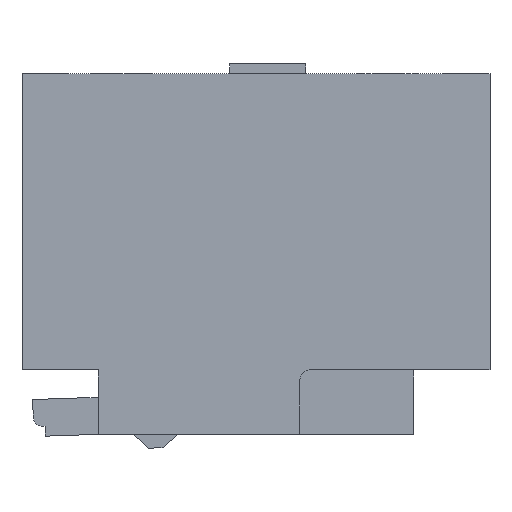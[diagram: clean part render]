
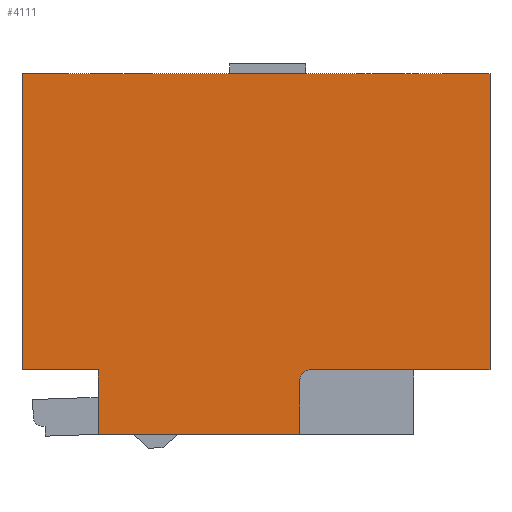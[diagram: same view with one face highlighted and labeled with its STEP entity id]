
A CAD part, left-side view. The second image highlights one B-rep face of the part: STEP entity #4111.
In plain terms, the highlighted planar face has unit normal (-1, 0, 0).
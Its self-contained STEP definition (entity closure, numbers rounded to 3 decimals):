
#27 = EDGE_CURVE ( 'NONE', #1536, #2897, #3526, .T. ) ;
#116 = LINE ( 'NONE', #1772, #3765 ) ;
#191 = VERTEX_POINT ( 'NONE', #746 ) ;
#222 = CIRCLE ( 'NONE', #2898, 1. ) ;
#294 = ORIENTED_EDGE ( 'NONE', *, *, #4285, .T. ) ;
#408 = ORIENTED_EDGE ( 'NONE', *, *, #3422, .T. ) ;
#447 = LINE ( 'NONE', #3438, #4096 ) ;
#456 = DIRECTION ( 'NONE',  ( 0., -1., 0. ) ) ;
#485 = EDGE_CURVE ( 'NONE', #1859, #3072, #498, .T. ) ;
#498 = LINE ( 'NONE', #2179, #3177 ) ;
#541 = CARTESIAN_POINT ( 'NONE',  ( -11.6, -5.5, 6.6 ) ) ;
#730 = CARTESIAN_POINT ( 'NONE',  ( -11.6, -4.5, 0. ) ) ;
#746 = CARTESIAN_POINT ( 'NONE',  ( -11.6, -24., 6.6 ) ) ;
#753 = VERTEX_POINT ( 'NONE', #2255 ) ;
#763 = DIRECTION ( 'NONE',  ( 0., 0., 1. ) ) ;
#912 = VERTEX_POINT ( 'NONE', #2867 ) ;
#1041 = CARTESIAN_POINT ( 'NONE',  ( -11.6, -4.5, 5.6 ) ) ;
#1056 = CARTESIAN_POINT ( 'NONE',  ( -11.6, 16.2, 0. ) ) ;
#1105 = DIRECTION ( 'NONE',  ( 0., 1., 0. ) ) ;
#1173 = DIRECTION ( 'NONE',  ( 0., 0., -1. ) ) ;
#1191 = VERTEX_POINT ( 'NONE', #541 ) ;
#1218 = CARTESIAN_POINT ( 'NONE',  ( -11.6, 24., 37. ) ) ;
#1339 = LINE ( 'NONE', #2497, #4144 ) ;
#1356 = EDGE_LOOP ( 'NONE', ( #2071, #294, #2191, #408, #4485, #2529, #3795, #3143, #3430, #2626 ) ) ;
#1439 = EDGE_CURVE ( 'NONE', #1536, #1859, #1486, .T. ) ;
#1455 = LINE ( 'NONE', #3181, #3200 ) ;
#1474 = DIRECTION ( 'NONE',  ( 0., -1., 0. ) ) ;
#1486 = LINE ( 'NONE', #1218, #3117 ) ;
#1536 = VERTEX_POINT ( 'NONE', #3748 ) ;
#1660 = DIRECTION ( 'NONE',  ( 0., 0., -1. ) ) ;
#1766 = CARTESIAN_POINT ( 'NONE',  ( -11.6, 16.2, 6.6 ) ) ;
#1772 = CARTESIAN_POINT ( 'NONE',  ( -11.6, -24., 37. ) ) ;
#1859 = VERTEX_POINT ( 'NONE', #3032 ) ;
#1897 = VECTOR ( 'NONE', #3521, 1000. ) ;
#2049 = VECTOR ( 'NONE', #763, 1000. ) ;
#2071 = ORIENTED_EDGE ( 'NONE', *, *, #4438, .T. ) ;
#2148 = PLANE ( 'NONE',  #4299 ) ;
#2153 = CARTESIAN_POINT ( 'NONE',  ( -11.6, -24., 37. ) ) ;
#2179 = CARTESIAN_POINT ( 'NONE',  ( -11.6, 24., 6.6 ) ) ;
#2191 = ORIENTED_EDGE ( 'NONE', *, *, #4048, .T. ) ;
#2212 = DIRECTION ( 'NONE',  ( 0., 1., 0. ) ) ;
#2255 = CARTESIAN_POINT ( 'NONE',  ( -11.6, -4.5, 0. ) ) ;
#2368 = DIRECTION ( 'NONE',  ( 0., -1., 0. ) ) ;
#2394 = EDGE_CURVE ( 'NONE', #3072, #3313, #2806, .T. ) ;
#2411 = CARTESIAN_POINT ( 'NONE',  ( -11.6, 16.2, 37. ) ) ;
#2475 = DIRECTION ( 'NONE',  ( 0., -1., 0. ) ) ;
#2486 = CARTESIAN_POINT ( 'NONE',  ( -11.6, 24., 37. ) ) ;
#2497 = CARTESIAN_POINT ( 'NONE',  ( -11.6, 24., 6.6 ) ) ;
#2529 = ORIENTED_EDGE ( 'NONE', *, *, #2865, .F. ) ;
#2617 = VECTOR ( 'NONE', #456, 1000. ) ;
#2626 = ORIENTED_EDGE ( 'NONE', *, *, #2394, .T. ) ;
#2769 = VERTEX_POINT ( 'NONE', #1041 ) ;
#2805 = FACE_OUTER_BOUND ( 'NONE', #1356, .T. ) ;
#2806 = LINE ( 'NONE', #2411, #1897 ) ;
#2865 = EDGE_CURVE ( 'NONE', #2897, #191, #116, .T. ) ;
#2867 = CARTESIAN_POINT ( 'NONE',  ( -11.6, -16.2, 6.6 ) ) ;
#2897 = VERTEX_POINT ( 'NONE', #2153 ) ;
#2898 = AXIS2_PLACEMENT_3D ( 'NONE', #3570, #3232, #1105 ) ;
#2988 = LINE ( 'NONE', #730, #2049 ) ;
#3032 = CARTESIAN_POINT ( 'NONE',  ( -11.6, 24., 6.6 ) ) ;
#3072 = VERTEX_POINT ( 'NONE', #1766 ) ;
#3117 = VECTOR ( 'NONE', #1173, 1000. ) ;
#3143 = ORIENTED_EDGE ( 'NONE', *, *, #1439, .T. ) ;
#3177 = VECTOR ( 'NONE', #1474, 1000. ) ;
#3181 = CARTESIAN_POINT ( 'NONE',  ( -11.6, -16.2, 6.6 ) ) ;
#3200 = VECTOR ( 'NONE', #3625, 1000. ) ;
#3215 = DIRECTION ( 'NONE',  ( 1., 0., 0. ) ) ;
#3232 = DIRECTION ( 'NONE',  ( 1., 0., 0. ) ) ;
#3311 = CARTESIAN_POINT ( 'NONE',  ( -11.6, 24., 37. ) ) ;
#3313 = VERTEX_POINT ( 'NONE', #1056 ) ;
#3422 = EDGE_CURVE ( 'NONE', #1191, #912, #1455, .T. ) ;
#3430 = ORIENTED_EDGE ( 'NONE', *, *, #485, .T. ) ;
#3438 = CARTESIAN_POINT ( 'NONE',  ( -11.6, 24., 0. ) ) ;
#3521 = DIRECTION ( 'NONE',  ( 0., 0., -1. ) ) ;
#3526 = LINE ( 'NONE', #3311, #2617 ) ;
#3570 = CARTESIAN_POINT ( 'NONE',  ( -11.6, -5.5, 5.6 ) ) ;
#3625 = DIRECTION ( 'NONE',  ( 0., -1., 0. ) ) ;
#3748 = CARTESIAN_POINT ( 'NONE',  ( -11.6, 24., 37. ) ) ;
#3765 = VECTOR ( 'NONE', #1660, 1000. ) ;
#3795 = ORIENTED_EDGE ( 'NONE', *, *, #27, .F. ) ;
#3816 = EDGE_CURVE ( 'NONE', #912, #191, #1339, .T. ) ;
#4048 = EDGE_CURVE ( 'NONE', #2769, #1191, #222, .T. ) ;
#4096 = VECTOR ( 'NONE', #2368, 1000. ) ;
#4111 = ADVANCED_FACE ( 'NONE', ( #2805 ), #2148, .F. ) ;
#4144 = VECTOR ( 'NONE', #2475, 1000. ) ;
#4285 = EDGE_CURVE ( 'NONE', #753, #2769, #2988, .T. ) ;
#4299 = AXIS2_PLACEMENT_3D ( 'NONE', #2486, #3215, #2212 ) ;
#4438 = EDGE_CURVE ( 'NONE', #3313, #753, #447, .T. ) ;
#4485 = ORIENTED_EDGE ( 'NONE', *, *, #3816, .T. ) ;
